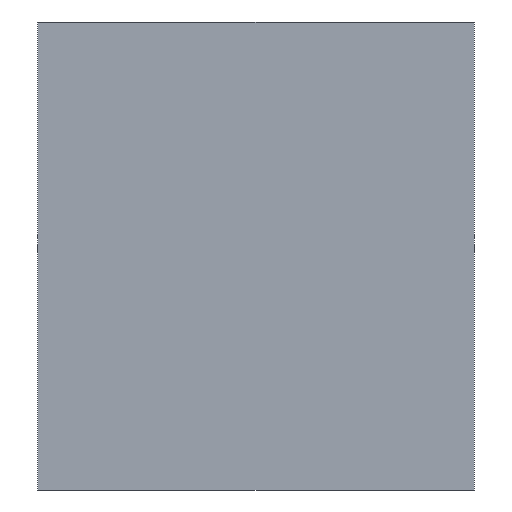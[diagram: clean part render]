
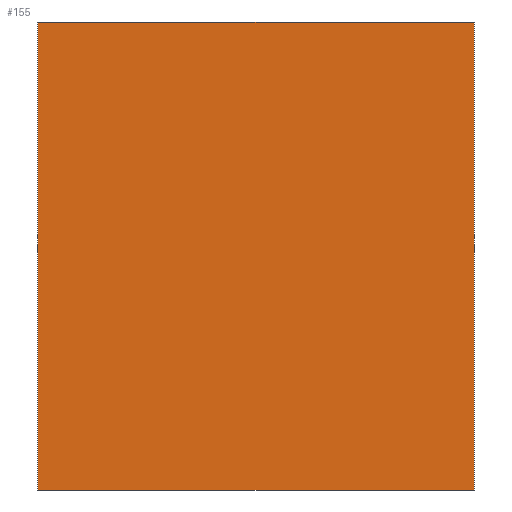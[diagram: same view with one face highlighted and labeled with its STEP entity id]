
A CAD part, front view. The second image highlights one B-rep face of the part: STEP entity #155.
In plain terms, the highlighted planar face has unit normal (0, -1, 0).
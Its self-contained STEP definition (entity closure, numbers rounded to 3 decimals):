
#39 = EDGE_CURVE('',#40,#42,#44,.T.);
#40 = VERTEX_POINT('',#41);
#41 = CARTESIAN_POINT('',(-2.875,-4.05,0.));
#42 = VERTEX_POINT('',#43);
#43 = CARTESIAN_POINT('',(-2.875,-4.05,10.4));
#44 = SURFACE_CURVE('',#45,(#49,#61),.PCURVE_S1.);
#45 = LINE('',#46,#47);
#46 = CARTESIAN_POINT('',(-2.875,-4.05,0.));
#47 = VECTOR('',#48,1.);
#48 = DIRECTION('',(0.,0.,1.));
#49 = PCURVE('',#50,#55);
#50 = PLANE('',#51);
#51 = AXIS2_PLACEMENT_3D('',#52,#53,#54);
#52 = CARTESIAN_POINT('',(-2.875,-4.05,0.));
#53 = DIRECTION('',(1.,0.,0.));
#54 = DIRECTION('',(0.,0.,1.));
#55 = DEFINITIONAL_REPRESENTATION('',(#56),#60);
#56 = LINE('',#57,#58);
#57 = CARTESIAN_POINT('',(0.,0.));
#58 = VECTOR('',#59,1.);
#59 = DIRECTION('',(1.,0.));
#60 = ( GEOMETRIC_REPRESENTATION_CONTEXT(2) 
PARAMETRIC_REPRESENTATION_CONTEXT() REPRESENTATION_CONTEXT('2D SPACE',''
  ) );
#61 = PCURVE('',#62,#67);
#62 = PLANE('',#63);
#63 = AXIS2_PLACEMENT_3D('',#64,#65,#66);
#64 = CARTESIAN_POINT('',(-2.875,-4.05,0.));
#65 = DIRECTION('',(0.,1.,0.));
#66 = DIRECTION('',(0.,0.,1.));
#67 = DEFINITIONAL_REPRESENTATION('',(#68),#72);
#68 = LINE('',#69,#70);
#69 = CARTESIAN_POINT('',(0.,0.));
#70 = VECTOR('',#71,1.);
#71 = DIRECTION('',(1.,0.));
#72 = ( GEOMETRIC_REPRESENTATION_CONTEXT(2) 
PARAMETRIC_REPRESENTATION_CONTEXT() REPRESENTATION_CONTEXT('2D SPACE',''
  ) );
#90 = PLANE('',#91);
#91 = AXIS2_PLACEMENT_3D('',#92,#93,#94);
#92 = CARTESIAN_POINT('',(-2.875,-4.05,0.));
#93 = DIRECTION('',(0.,0.,1.));
#94 = DIRECTION('',(1.,0.,0.));
#144 = PLANE('',#145);
#145 = AXIS2_PLACEMENT_3D('',#146,#147,#148);
#146 = CARTESIAN_POINT('',(-2.875,-4.05,10.4));
#147 = DIRECTION('',(0.,0.,1.));
#148 = DIRECTION('',(1.,0.,0.));
#155 = ADVANCED_FACE('',(#156),#62,.F.);
#156 = FACE_BOUND('',#157,.F.);
#157 = EDGE_LOOP('',(#158,#181,#182,#205));
#158 = ORIENTED_EDGE('',*,*,#159,.F.);
#159 = EDGE_CURVE('',#40,#160,#162,.T.);
#160 = VERTEX_POINT('',#161);
#161 = CARTESIAN_POINT('',(6.835,-4.05,0.));
#162 = SURFACE_CURVE('',#163,(#167,#174),.PCURVE_S1.);
#163 = LINE('',#164,#165);
#164 = CARTESIAN_POINT('',(-2.875,-4.05,0.));
#165 = VECTOR('',#166,1.);
#166 = DIRECTION('',(1.,0.,0.));
#167 = PCURVE('',#62,#168);
#168 = DEFINITIONAL_REPRESENTATION('',(#169),#173);
#169 = LINE('',#170,#171);
#170 = CARTESIAN_POINT('',(0.,0.));
#171 = VECTOR('',#172,1.);
#172 = DIRECTION('',(0.,1.));
#173 = ( GEOMETRIC_REPRESENTATION_CONTEXT(2) 
PARAMETRIC_REPRESENTATION_CONTEXT() REPRESENTATION_CONTEXT('2D SPACE',''
  ) );
#174 = PCURVE('',#90,#175);
#175 = DEFINITIONAL_REPRESENTATION('',(#176),#180);
#176 = LINE('',#177,#178);
#177 = CARTESIAN_POINT('',(0.,0.));
#178 = VECTOR('',#179,1.);
#179 = DIRECTION('',(1.,0.));
#180 = ( GEOMETRIC_REPRESENTATION_CONTEXT(2) 
PARAMETRIC_REPRESENTATION_CONTEXT() REPRESENTATION_CONTEXT('2D SPACE',''
  ) );
#181 = ORIENTED_EDGE('',*,*,#39,.T.);
#182 = ORIENTED_EDGE('',*,*,#183,.T.);
#183 = EDGE_CURVE('',#42,#184,#186,.T.);
#184 = VERTEX_POINT('',#185);
#185 = CARTESIAN_POINT('',(6.835,-4.05,10.4));
#186 = SURFACE_CURVE('',#187,(#191,#198),.PCURVE_S1.);
#187 = LINE('',#188,#189);
#188 = CARTESIAN_POINT('',(-2.875,-4.05,10.4));
#189 = VECTOR('',#190,1.);
#190 = DIRECTION('',(1.,0.,0.));
#191 = PCURVE('',#62,#192);
#192 = DEFINITIONAL_REPRESENTATION('',(#193),#197);
#193 = LINE('',#194,#195);
#194 = CARTESIAN_POINT('',(10.4,0.));
#195 = VECTOR('',#196,1.);
#196 = DIRECTION('',(0.,1.));
#197 = ( GEOMETRIC_REPRESENTATION_CONTEXT(2) 
PARAMETRIC_REPRESENTATION_CONTEXT() REPRESENTATION_CONTEXT('2D SPACE',''
  ) );
#198 = PCURVE('',#144,#199);
#199 = DEFINITIONAL_REPRESENTATION('',(#200),#204);
#200 = LINE('',#201,#202);
#201 = CARTESIAN_POINT('',(0.,0.));
#202 = VECTOR('',#203,1.);
#203 = DIRECTION('',(1.,0.));
#204 = ( GEOMETRIC_REPRESENTATION_CONTEXT(2) 
PARAMETRIC_REPRESENTATION_CONTEXT() REPRESENTATION_CONTEXT('2D SPACE',''
  ) );
#205 = ORIENTED_EDGE('',*,*,#206,.F.);
#206 = EDGE_CURVE('',#160,#184,#207,.T.);
#207 = SURFACE_CURVE('',#208,(#212,#219),.PCURVE_S1.);
#208 = LINE('',#209,#210);
#209 = CARTESIAN_POINT('',(6.835,-4.05,0.));
#210 = VECTOR('',#211,1.);
#211 = DIRECTION('',(0.,0.,1.));
#212 = PCURVE('',#62,#213);
#213 = DEFINITIONAL_REPRESENTATION('',(#214),#218);
#214 = LINE('',#215,#216);
#215 = CARTESIAN_POINT('',(0.,9.71));
#216 = VECTOR('',#217,1.);
#217 = DIRECTION('',(1.,0.));
#218 = ( GEOMETRIC_REPRESENTATION_CONTEXT(2) 
PARAMETRIC_REPRESENTATION_CONTEXT() REPRESENTATION_CONTEXT('2D SPACE',''
  ) );
#219 = PCURVE('',#220,#225);
#220 = PLANE('',#221);
#221 = AXIS2_PLACEMENT_3D('',#222,#223,#224);
#222 = CARTESIAN_POINT('',(6.835,-4.05,0.));
#223 = DIRECTION('',(1.,0.,0.));
#224 = DIRECTION('',(0.,0.,1.));
#225 = DEFINITIONAL_REPRESENTATION('',(#226),#230);
#226 = LINE('',#227,#228);
#227 = CARTESIAN_POINT('',(0.,0.));
#228 = VECTOR('',#229,1.);
#229 = DIRECTION('',(1.,0.));
#230 = ( GEOMETRIC_REPRESENTATION_CONTEXT(2) 
PARAMETRIC_REPRESENTATION_CONTEXT() REPRESENTATION_CONTEXT('2D SPACE',''
  ) );
